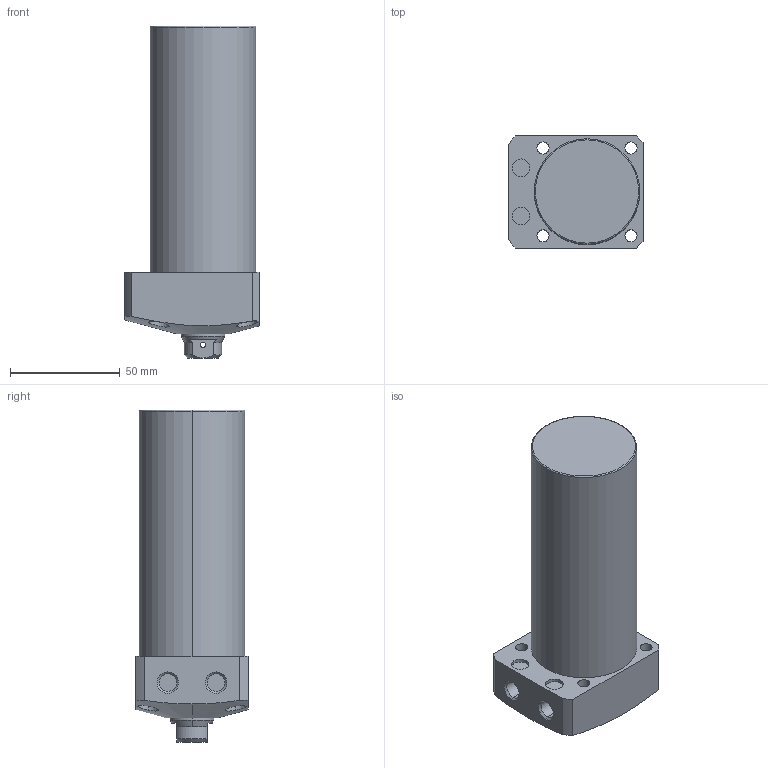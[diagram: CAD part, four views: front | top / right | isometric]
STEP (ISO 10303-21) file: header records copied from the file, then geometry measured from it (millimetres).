
FILE_DESCRIPTION (( 'STEP AP203' ), '1' );
FILE_NAME ('CLL048-CB-085.STEP', '2017-05-17T10:51:09', ( '' ), ( '' ), 'SwSTEP 2.0', 'SolidWorks 2015', '' );
FILE_SCHEMA (( 'CONFIG_CONTROL_DESIGN' ));
Length unit declared in the file: millimetre
Products named in the file (1): CLL048-CB-085
Bounding box: 61 x 51 x 151 mm (x, y, z)
Volume: 276834.9 mm3; surface area: 31704.2 mm2
Topology: 1 solids, 1 shells, 78 faces, 182 edges, 115 vertices
Faces by surface type: cylinder 39, plane 22, cone 15, torus 2
Entity records: 2751 total; most frequent: CARTESIAN_POINT 852, DIRECTION 394, ORIENTED_EDGE 360, EDGE_CURVE 180, AXIS2_PLACEMENT_3D 163, VERTEX_POINT 115, EDGE_LOOP 101, CIRCLE 84
